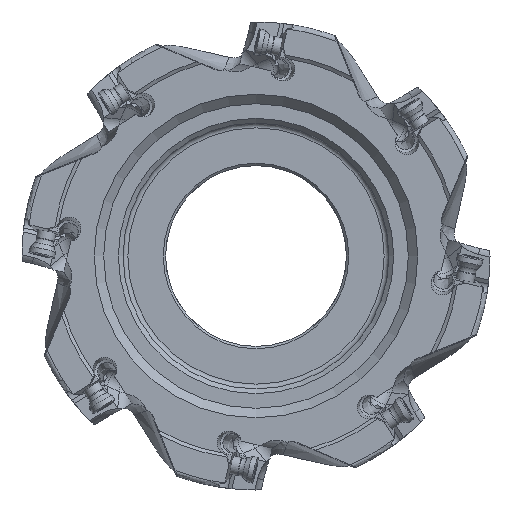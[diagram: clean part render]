
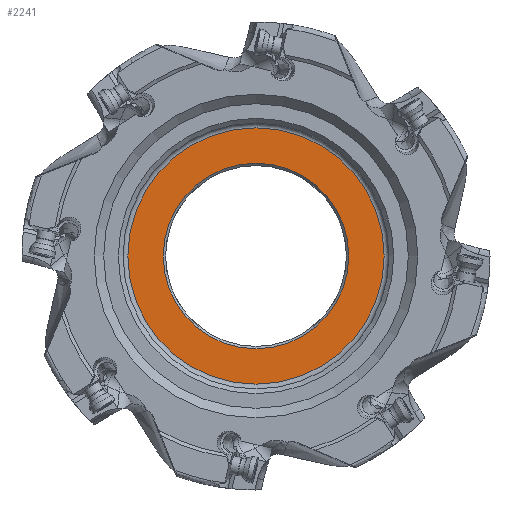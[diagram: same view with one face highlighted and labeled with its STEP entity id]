
A CAD part, left-side view. The second image highlights one B-rep face of the part: STEP entity #2241.
In plain terms, the highlighted planar face has unit normal (-1, 0, 0).
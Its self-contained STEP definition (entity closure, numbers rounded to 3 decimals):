
#1883=FACE_BOUND('',#3723,.T.);
#1884=FACE_BOUND('',#3724,.T.);
#2241=ADVANCED_FACE('',(#1883,#1884),#2763,.T.);
#2763=PLANE('',#11361);
#3723=EDGE_LOOP('',(#5205));
#3724=EDGE_LOOP('',(#5206));
#5205=ORIENTED_EDGE('',*,*,#9165,.F.);
#5206=ORIENTED_EDGE('',*,*,#9166,.F.);
#7935=VERTEX_POINT('',#18744);
#7936=VERTEX_POINT('',#18746);
#9165=EDGE_CURVE('',#7935,#7935,#10394,.T.);
#9166=EDGE_CURVE('',#7936,#7936,#10395,.T.);
#10394=CIRCLE('',#11359,19.55);
#10395=CIRCLE('',#11360,27.);
#11359=AXIS2_PLACEMENT_3D('',#18743,#13493,#13494);
#11360=AXIS2_PLACEMENT_3D('',#18745,#13495,#13496);
#11361=AXIS2_PLACEMENT_3D('',#18747,#13497,#13498);
#13493=DIRECTION('',(-1.,0.,0.));
#13494=DIRECTION('',(0.,-1.,0.));
#13495=DIRECTION('',(1.,0.,0.));
#13496=DIRECTION('',(0.,-1.,0.));
#13497=DIRECTION('',(-1.,0.,0.));
#13498=DIRECTION('',(0.,-1.,0.));
#18743=CARTESIAN_POINT('',(20.8,0.,0.));
#18744=CARTESIAN_POINT('',(20.8,-19.55,0.));
#18745=CARTESIAN_POINT('',(20.8,0.,0.));
#18746=CARTESIAN_POINT('',(20.8,-27.,0.));
#18747=CARTESIAN_POINT('',(20.8,0.,-28.));
